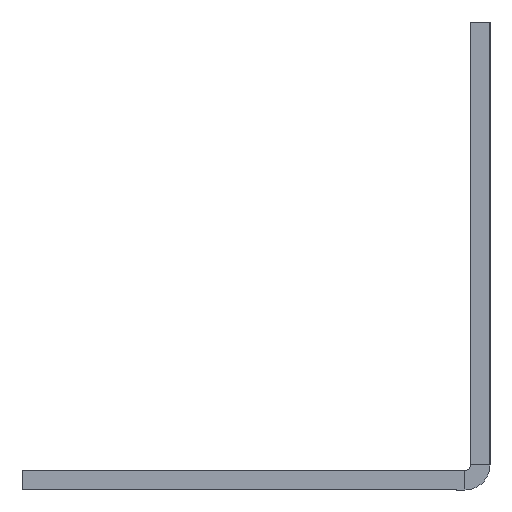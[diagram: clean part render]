
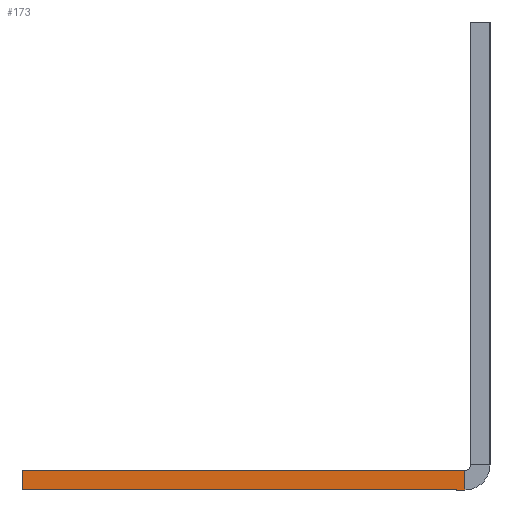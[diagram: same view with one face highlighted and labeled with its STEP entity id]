
A CAD part, left-side view. The second image highlights one B-rep face of the part: STEP entity #173.
In plain terms, the highlighted planar face has unit normal (-1, 0, 0).
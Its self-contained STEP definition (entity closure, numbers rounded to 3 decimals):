
#122 = VECTOR ( 'NONE', #601, 1000. ) ;
#124 = FACE_OUTER_BOUND ( 'NONE', #288, .T. ) ;
#173 = ADVANCED_FACE ( 'NONE', ( #124 ), #747, .T. ) ;
#288 = EDGE_LOOP ( 'NONE', ( #462, #1718, #1746, #1823 ) ) ;
#334 = DIRECTION ( 'NONE',  ( 0., -1., 0. ) ) ;
#462 = ORIENTED_EDGE ( 'NONE', *, *, #890, .F. ) ;
#469 = EDGE_CURVE ( 'NONE', #917, #953, #866, .T. ) ;
#570 = DIRECTION ( 'NONE',  ( 0., 0., -1. ) ) ;
#589 = CARTESIAN_POINT ( 'NONE',  ( 0., 57.962, -60.462 ) ) ;
#597 = VECTOR ( 'NONE', #1345, 1000. ) ;
#601 = DIRECTION ( 'NONE',  ( 0., 0., 1. ) ) ;
#747 = PLANE ( 'NONE',  #941 ) ;
#776 = CARTESIAN_POINT ( 'NONE',  ( 0., 57.962, -57.962 ) ) ;
#780 = EDGE_CURVE ( 'NONE', #917, #2362, #1883, .T. ) ;
#866 = LINE ( 'NONE', #589, #122 ) ;
#890 = EDGE_CURVE ( 'NONE', #1996, #2362, #1237, .T. ) ;
#917 = VERTEX_POINT ( 'NONE', #1800 ) ;
#941 = AXIS2_PLACEMENT_3D ( 'NONE', #958, #1575, #334 ) ;
#953 = VERTEX_POINT ( 'NONE', #776 ) ;
#958 = CARTESIAN_POINT ( 'NONE',  ( 0., -58.038, -60.462 ) ) ;
#1187 = CARTESIAN_POINT ( 'NONE',  ( 0., 0.737, -60.462 ) ) ;
#1237 = LINE ( 'NONE', #1187, #2107 ) ;
#1269 = CARTESIAN_POINT ( 'NONE',  ( 0., -58.038, -57.962 ) ) ;
#1345 = DIRECTION ( 'NONE',  ( 0., -1., 0. ) ) ;
#1575 = DIRECTION ( 'NONE',  ( -1., 0., 0. ) ) ;
#1718 = ORIENTED_EDGE ( 'NONE', *, *, #1799, .F. ) ;
#1746 = ORIENTED_EDGE ( 'NONE', *, *, #469, .F. ) ;
#1772 = CARTESIAN_POINT ( 'NONE',  ( 0., 0.737, -60.462 ) ) ;
#1774 = DIRECTION ( 'NONE',  ( 0., -1., 0. ) ) ;
#1799 = EDGE_CURVE ( 'NONE', #953, #1996, #1936, .T. ) ;
#1800 = CARTESIAN_POINT ( 'NONE',  ( 0., 57.962, -60.462 ) ) ;
#1823 = ORIENTED_EDGE ( 'NONE', *, *, #780, .T. ) ;
#1883 = LINE ( 'NONE', #1932, #597 ) ;
#1932 = CARTESIAN_POINT ( 'NONE',  ( 0., -58.038, -60.462 ) ) ;
#1936 = LINE ( 'NONE', #1269, #2190 ) ;
#1996 = VERTEX_POINT ( 'NONE', #2049 ) ;
#2049 = CARTESIAN_POINT ( 'NONE',  ( 0., 0.737, -57.962 ) ) ;
#2107 = VECTOR ( 'NONE', #570, 1000. ) ;
#2190 = VECTOR ( 'NONE', #1774, 1000. ) ;
#2362 = VERTEX_POINT ( 'NONE', #1772 ) ;
